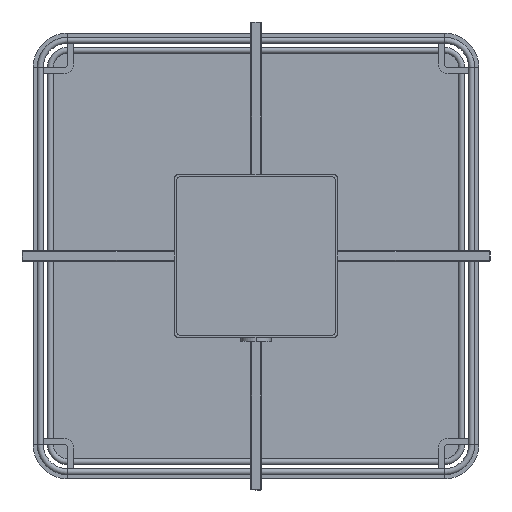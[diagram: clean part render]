
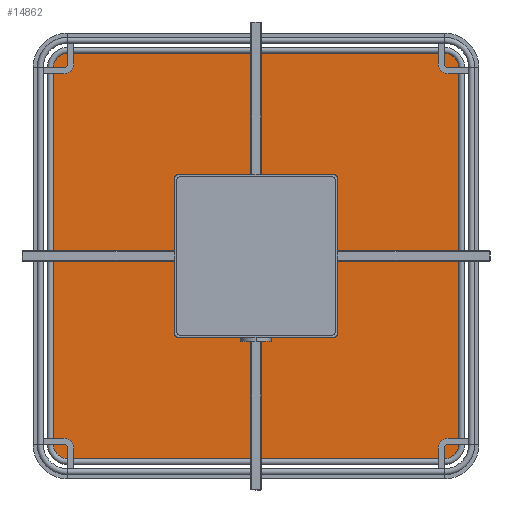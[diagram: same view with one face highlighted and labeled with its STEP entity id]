
A CAD part, front view. The second image highlights one B-rep face of the part: STEP entity #14862.
In plain terms, the highlighted planar face has unit normal (0, -1, 0).
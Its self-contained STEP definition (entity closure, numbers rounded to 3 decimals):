
#1295 = VECTOR ( 'NONE', #13133, 1000. ) ;
#1668 = DIRECTION ( 'NONE',  ( 0., 0., 1. ) ) ;
#2028 = DIRECTION ( 'NONE',  ( 0., 0., -1. ) ) ;
#2625 = CARTESIAN_POINT ( 'NONE',  ( -93., 298.5, -93. ) ) ;
#2657 = DIRECTION ( 'NONE',  ( 0., 1., 0. ) ) ;
#2934 = CARTESIAN_POINT ( 'NONE',  ( 93., 298.5, 103. ) ) ;
#3010 = CARTESIAN_POINT ( 'NONE',  ( 103., 298.5, -93. ) ) ;
#3072 = EDGE_CURVE ( 'NONE', #10114, #4714, #14292, .T. ) ;
#3447 = EDGE_CURVE ( 'NONE', #17830, #6005, #4449, .T. ) ;
#3498 = CIRCLE ( 'NONE', #8274, 10. ) ;
#3633 = CARTESIAN_POINT ( 'NONE',  ( 93., 298.5, -103. ) ) ;
#3643 = DIRECTION ( 'NONE',  ( 0., 1., 0. ) ) ;
#3954 = CARTESIAN_POINT ( 'NONE',  ( -93., 298.5, -103. ) ) ;
#4114 = CARTESIAN_POINT ( 'NONE',  ( 93., 298.5, 93. ) ) ;
#4449 = CIRCLE ( 'NONE', #15552, 10. ) ;
#4714 = VERTEX_POINT ( 'NONE', #11224 ) ;
#5023 = ORIENTED_EDGE ( 'NONE', *, *, #18641, .F. ) ;
#5169 = LINE ( 'NONE', #12750, #17479 ) ;
#5847 = LINE ( 'NONE', #7250, #1295 ) ;
#6005 = VERTEX_POINT ( 'NONE', #14416 ) ;
#6186 = VERTEX_POINT ( 'NONE', #3010 ) ;
#6608 = CARTESIAN_POINT ( 'NONE',  ( 103., 298.5, 93. ) ) ;
#6758 = VECTOR ( 'NONE', #9722, 1000. ) ;
#7250 = CARTESIAN_POINT ( 'NONE',  ( -93., 298.5, 103. ) ) ;
#7323 = ORIENTED_EDGE ( 'NONE', *, *, #11134, .F. ) ;
#7976 = CARTESIAN_POINT ( 'NONE',  ( 93., 298.5, -103. ) ) ;
#8274 = AXIS2_PLACEMENT_3D ( 'NONE', #16294, #2657, #1668 ) ;
#8379 = ORIENTED_EDGE ( 'NONE', *, *, #13119, .F. ) ;
#9289 = VERTEX_POINT ( 'NONE', #7976 ) ;
#9602 = CARTESIAN_POINT ( 'NONE',  ( -103., 298.5, 93. ) ) ;
#9722 = DIRECTION ( 'NONE',  ( -1., 0., 0. ) ) ;
#9957 = ORIENTED_EDGE ( 'NONE', *, *, #13715, .F. ) ;
#10085 = DIRECTION ( 'NONE',  ( 0., 1., 0. ) ) ;
#10114 = VERTEX_POINT ( 'NONE', #3954 ) ;
#10324 = DIRECTION ( 'NONE',  ( 0., 1., 0. ) ) ;
#10953 = EDGE_CURVE ( 'NONE', #6005, #17648, #5847, .T. ) ;
#11100 = ORIENTED_EDGE ( 'NONE', *, *, #15022, .F. ) ;
#11134 = EDGE_CURVE ( 'NONE', #6186, #9289, #3498, .T. ) ;
#11222 = LINE ( 'NONE', #3633, #6758 ) ;
#11224 = CARTESIAN_POINT ( 'NONE',  ( -103., 298.5, -93. ) ) ;
#11438 = DIRECTION ( 'NONE',  ( 0., 0., 1. ) ) ;
#11508 = VECTOR ( 'NONE', #2028, 1000. ) ;
#11917 = PLANE ( 'NONE',  #13111 ) ;
#12307 = ORIENTED_EDGE ( 'NONE', *, *, #3072, .F. ) ;
#12750 = CARTESIAN_POINT ( 'NONE',  ( -103., 298.5, -93. ) ) ;
#13111 = AXIS2_PLACEMENT_3D ( 'NONE', #13416, #10324, #15086 ) ;
#13119 = EDGE_CURVE ( 'NONE', #9289, #10114, #11222, .T. ) ;
#13133 = DIRECTION ( 'NONE',  ( 1., 0., 0. ) ) ;
#13290 = DIRECTION ( 'NONE',  ( 0., 1., 0. ) ) ;
#13416 = CARTESIAN_POINT ( 'NONE',  ( -93., 298.5, -93. ) ) ;
#13715 = EDGE_CURVE ( 'NONE', #17648, #16808, #16285, .T. ) ;
#14066 = AXIS2_PLACEMENT_3D ( 'NONE', #4114, #10085, #19234 ) ;
#14292 = CIRCLE ( 'NONE', #14614, 10. ) ;
#14416 = CARTESIAN_POINT ( 'NONE',  ( -93., 298.5, 103. ) ) ;
#14603 = CARTESIAN_POINT ( 'NONE',  ( -93., 298.5, 93. ) ) ;
#14614 = AXIS2_PLACEMENT_3D ( 'NONE', #2625, #13290, #15685 ) ;
#14862 = ADVANCED_FACE ( 'NONE', ( #18266 ), #11917, .F. ) ;
#15022 = EDGE_CURVE ( 'NONE', #16808, #6186, #18560, .T. ) ;
#15086 = DIRECTION ( 'NONE',  ( 0., 0., 1. ) ) ;
#15552 = AXIS2_PLACEMENT_3D ( 'NONE', #14603, #3643, #18691 ) ;
#15639 = ORIENTED_EDGE ( 'NONE', *, *, #3447, .F. ) ;
#15685 = DIRECTION ( 'NONE',  ( 0., 0., 1. ) ) ;
#16285 = CIRCLE ( 'NONE', #14066, 10. ) ;
#16294 = CARTESIAN_POINT ( 'NONE',  ( 93., 298.5, -93. ) ) ;
#16808 = VERTEX_POINT ( 'NONE', #17688 ) ;
#17479 = VECTOR ( 'NONE', #11438, 1000. ) ;
#17648 = VERTEX_POINT ( 'NONE', #2934 ) ;
#17688 = CARTESIAN_POINT ( 'NONE',  ( 103., 298.5, 93. ) ) ;
#17830 = VERTEX_POINT ( 'NONE', #9602 ) ;
#18266 = FACE_OUTER_BOUND ( 'NONE', #18424, .T. ) ;
#18424 = EDGE_LOOP ( 'NONE', ( #12307, #8379, #7323, #11100, #9957, #19442, #15639, #5023 ) ) ;
#18560 = LINE ( 'NONE', #6608, #11508 ) ;
#18641 = EDGE_CURVE ( 'NONE', #4714, #17830, #5169, .T. ) ;
#18691 = DIRECTION ( 'NONE',  ( 0., 0., 1. ) ) ;
#19234 = DIRECTION ( 'NONE',  ( 0., 0., 1. ) ) ;
#19442 = ORIENTED_EDGE ( 'NONE', *, *, #10953, .F. ) ;
